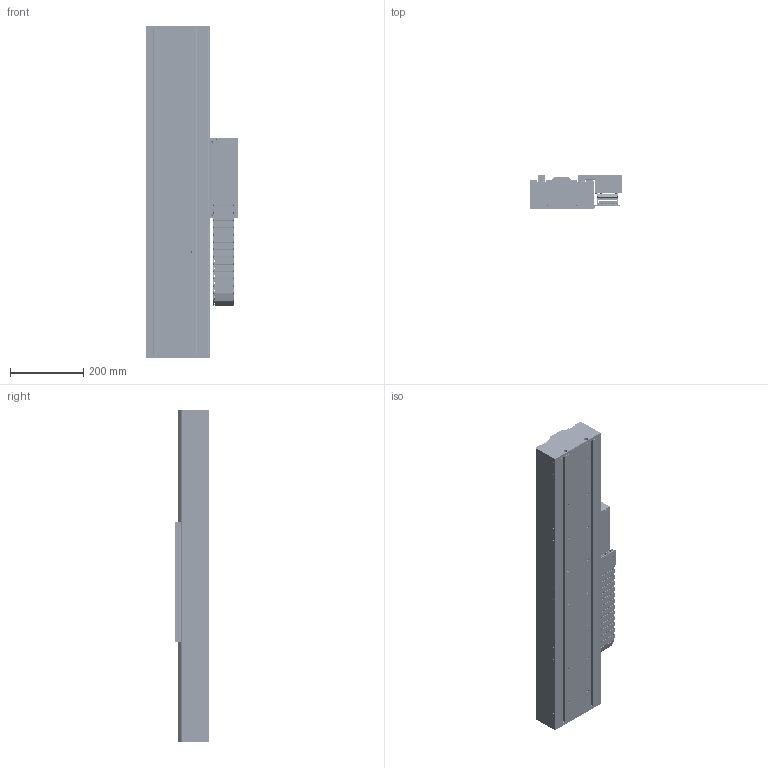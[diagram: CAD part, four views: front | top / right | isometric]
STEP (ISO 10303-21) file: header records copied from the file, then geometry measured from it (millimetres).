
FILE_DESCRIPTION (( 'STEP AP203' ), '1' );
FILE_NAME ('STF35230C-xC1B-Bxx.STEP', '2007-07-02T21:01:35', ( 'Yaskawa' ), ( 'Yaskawa' ), 'SwSTEP 2.0', 'SolidWorks 2007', '' );
FILE_SCHEMA (( 'CONFIG_CONTROL_DESIGN' ));
Length unit declared in the file: millimetre
Products named in the file (61): 07.50.028.0_114; B18.3.1M - 6 x 1.0 x 16 Hex SHCS -- 16NHX_B18.3.1M - 6 x 1.0 x 16 Hex SHCS -- 16NHX; STF2035-004 Flag; STF2035-005-R2 Cable Router; SSR15W Block; 07.50.028.0_109; 07.50.028.0_116; 07.50.028.0_121; 07.50.028.0_118; STF2035-010-02 Side Cover 2_D; 07.50.028.0_100; B18.3.4M - 3 x 0.5 x 12 SBHCS --N_B18.3.4M - 3 x 0.5 x 12 SBHCS --N; STF35120 Base_STF35BM-004; 07.50.028.0_101; 07.50.028.0_119; SGLFW-35A230AP; 07.50.028.0_96; Bumper-Medium; 07.50.028.0_102; 07.50.028.0_97; 07.50.028.0_111; STF35230C-xC1B-Bxx; 07.50.028.0_103; STCM-006-R1 Upper E-chain Bracket; Mult-SR15+580LY_004; 07.50.028.0_104; STF35230 Complete Carriage; STCM-R1; STCM-007 Lower E-Chain Bracket; STF2035-003 Renishaw Encoder Mount; STF35BM Base_STF35120-004; 07.50.028.0_106; STCM-003 Cable Assembly Bottom; Serial Converter; RGH22B; 07.50.028.0_98; STF20120D; 07.50.028.0_123; STF2035-006 Endplate; 07.50.028.0_122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
Assembly tree (82 placements, depth 4):
  STF35230C-xC1B-Bxx
    STF2035-009-02 Top Cover 2_D
    STF2035-006 Endplate  x2
    STF35230 Complete Carriage
      SSR15W Block  x6
      STF2035-002B-R1 F35-230 Carriage Horn  x2
      STF2035-003 Renishaw Encoder Mount
      STF2035-004 Flag
      SGLFW-35A230AP
      STCM-R1
        B18.3.5M - 3 x 0.5 x 6 Socket FCHS  -- 6N_B18.3.5M - 3 x 0.5 x 6 Socket FCHS  -- 6N  x6
        STCM-004 Cable Assembly Side
        B18.3.4M - 3 x 0.5 x 12 SBHCS --N_B18.3.4M - 3 x 0.5 x 12 SBHCS --N  x4
        STCM-006-R1 Upper E-chain Bracket
        STCM-001-R2 Cable Bracket
        Serial Converter
        STCM-003 Cable Assembly Bottom
        STCM-002-R2 Cable Assembly Front
        STCM-005-R1 Cable Assembly Cover
      STF2035-005-R2 Cable Router
      RGH22B
      STF2035-001D F35-230 Carriage
    STF35BM Base_STF35120-004
      End Stop with Bumper  x4
        STF2035-007 End Stop
        Bumper-Medium
        B18.3.1M - 6 x 1.0 x 16 Hex SHCS -- 16NHX_B18.3.1M - 6 x 1.0 x 16 Hex SHCS -- 16NHX
      Mult-SR15+580LY_004  x2
      SGLFM-35756AC
      STF35120 Base_STF35BM-004
    STF2035-010-02 Side Cover 2_D  x2
    STF20120D
      07.50.028.0_111  x2
      07.50.028.0_97
      07.50.028.0_117
      07.50.028.0_100
      07.50.028.0_102
      07.50.028.0_106
      07.50.028.0_114
      07.50.028.0_122
      07.50.028.0_118
      07.50.028.0_96
      07.50.028.0_98
      07.50.028.0_107
      07.50.028.0_112
      07.50.028.0_121
      07.50.028.0_116
      07.50.028.0_101
      07.50.028.0_108
      07.50.028.0_105  x2
      07.50.028.0_104
      07.50.028.0_119
      07.50.028.0_109
      07.50.028.0_103
      07.50.028.0_113
      07.50.028.0_120
      07.50.028.0_123
      07.50.028.0_110
      07.50.028.0_99
      07.50.028.0_115
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Bounding box: 254.2 x 94.7 x 909.05 mm (x, y, z)
Volume: 6450829.8 mm3; surface area: 2083353.1 mm2
Topology: 111 solids, 111 shells, 6083 faces, 15701 edges, 9987 vertices
Faces by surface type: plane 3102, cylinder 2403, cone 476, bspline 62, torus 32, sphere 8
Entity records: 135898 total; most frequent: DIRECTION 22849, CARTESIAN_POINT 22610, ORIENTED_EDGE 21334, EDGE_CURVE 10667, AXIS2_PLACEMENT_3D 7959, VERTEX_POINT 6987, VECTOR 6931, LINE 6931
